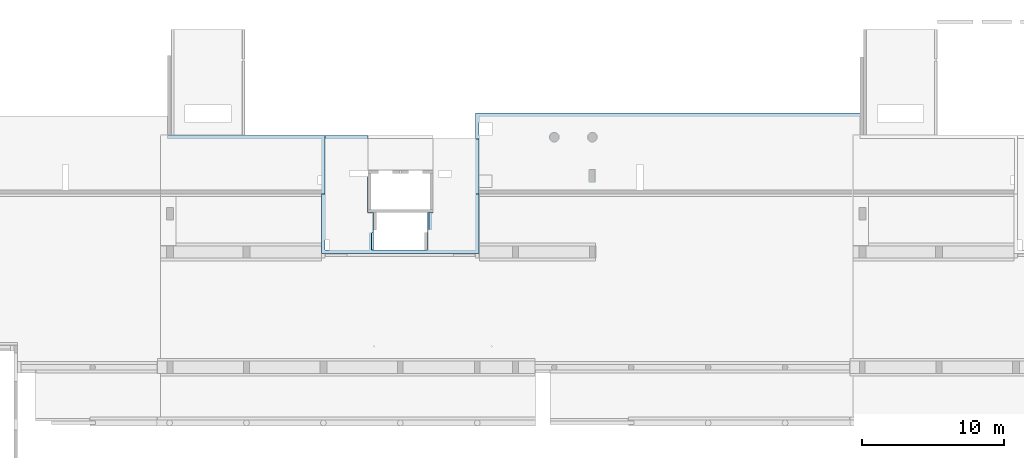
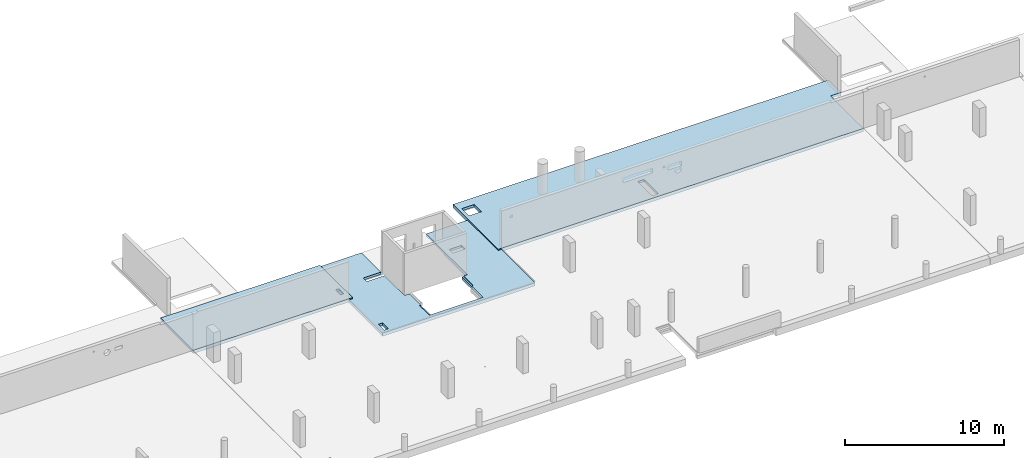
# One storey, part 8 of 10: 3 slabs.
"""IFC2X3 building model written with IfcOpenShell, lengths in millimetres."""

from ifc_helpers import new_model, entity, si_unit, converted_unit, derived_unit, direction, frame, origin, place, context, subcontext, project, spatial, faceted_brep, element, save


model = new_model("IFC2X3")

# Units and contexts
model_context = context("Model", 3, precision=0.01, world=origin(), true_north=direction((6.12303176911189e-17, 1.0)))
body_context = subcontext(model_context, "Body", "Model", "MODEL_VIEW")
ifc_project = project(units=[si_unit("LENGTHUNIT", "METRE", prefix="MILLI"), si_unit("AREAUNIT", "SQUARE_METRE"), si_unit("VOLUMEUNIT", "CUBIC_METRE"), converted_unit("PLANEANGLEUNIT", "DEGREE", entity("IfcRatioMeasure", 0.0174532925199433), si_unit("PLANEANGLEUNIT", "RADIAN"), dimensions=[0, 0, 0, 0, 0, 0, 0]), si_unit("MASSUNIT", "GRAM", prefix="KILO"), derived_unit("MASSDENSITYUNIT", [(si_unit("MASSUNIT", "GRAM", prefix="KILO"), 1), (si_unit("LENGTHUNIT", "METRE"), -3)]), si_unit("TIMEUNIT", "SECOND"), si_unit("FREQUENCYUNIT", "HERTZ"), si_unit("THERMODYNAMICTEMPERATUREUNIT", "DEGREE_CELSIUS"), derived_unit("THERMALTRANSMITTANCEUNIT", [(si_unit("MASSUNIT", "GRAM", prefix="KILO"), 1), (si_unit("THERMODYNAMICTEMPERATUREUNIT", "KELVIN"), -1), (si_unit("TIMEUNIT", "SECOND"), -3)]), derived_unit("VOLUMETRICFLOWRATEUNIT", [(si_unit("LENGTHUNIT", "METRE"), 3), (si_unit("TIMEUNIT", "SECOND"), -1)]), si_unit("ELECTRICCURRENTUNIT", "AMPERE"), si_unit("ELECTRICVOLTAGEUNIT", "VOLT"), si_unit("POWERUNIT", "WATT"), si_unit("FORCEUNIT", "NEWTON", prefix="KILO"), si_unit("ILLUMINANCEUNIT", "LUX"), si_unit("LUMINOUSFLUXUNIT", "LUMEN"), si_unit("LUMINOUSINTENSITYUNIT", "CANDELA"), derived_unit("USERDEFINED", [(si_unit("MASSUNIT", "GRAM", prefix="KILO"), -1), (si_unit("LENGTHUNIT", "METRE"), -2), (si_unit("TIMEUNIT", "SECOND"), 3), (si_unit("LUMINOUSFLUXUNIT", "LUMEN"), 1)]), derived_unit("LINEARVELOCITYUNIT", [(si_unit("LENGTHUNIT", "METRE"), 1), (si_unit("TIMEUNIT", "SECOND"), -1)]), si_unit("PRESSUREUNIT", "PASCAL"), derived_unit("USERDEFINED", [(si_unit("LENGTHUNIT", "METRE"), -2), (si_unit("MASSUNIT", "GRAM", prefix="KILO"), 1), (si_unit("TIMEUNIT", "SECOND"), -2)])], contexts=[model_context])

# Site, building, storey
site_placement = place(None, origin())
site = spatial("IfcSite", under=ifc_project, at=site_placement, Name="Default", CompositionType="ELEMENT")
building_placement = place(site_placement, origin())
building = spatial("IfcBuilding", under=site, at=building_placement, Name="niet gebruiken", CompositionType="ELEMENT")
storey_placement = place(building_placement, frame((0.0, 0.0, 9410.0)))
storey = spatial("IfcBuildingStorey", under=building, at=storey_placement, Name="02b tweede tussenverdieping", CompositionType="ELEMENT", Elevation=9409.99999999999)

# Slabs
slab_1_placement = place(storey_placement, origin())
element("IfcSlab", 1, at=slab_1_placement, inside=storey, Name="Floor:NLRS_23.21_FL_breedplaat d=70/250_schil apart - gevlinderd_gen", ObjectType="Floor:NLRS_23.21_FL_breedplaat d=70/250_schil apart - gevlinderd_gen", PredefinedType="FLOOR", context=body_context, shape_type="Brep", body=[
    faceted_brep([(60225.0, 41291.0, -250.0), (74950.0, 41291.0, -250.0), (74950.0, 41061.0, -250.0), (48724.9998491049, 41061.0, -250.0), (48474.9998491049, 41061.0, -250.0), (48474.9998491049, 44906.0, -250.0), (48474.9998491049, 45156.0, -250.0), (48474.9998491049, 46746.0, -250.0), (48725.0, 46746.0, -250.0), (75450.0, 46746.0, -250.0), (75700.0, 46746.0, -250.0), (75700.0, 45176.0, -250.0), (75470.0, 45176.0, -250.0), (75470.0, 46516.0, -250.0), (48705.0, 46516.0, -250.0), (48705.0, 46056.0, -250.0), (48725.0, 46056.0, -250.0), (48725.0, 45156.0, -250.0), (48705.0, 45156.0, -250.0), (48705.0, 42386.0, -250.0), (48724.9998491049, 42386.0, -250.0), (48724.9998491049, 41486.0, -250.0), (48705.0, 41486.0, -250.0), (48705.0, 41291.0, -250.0), (59775.0, 41291.0, -250.0), (59775.0, 41311.0, -250.0), (60225.0, 41311.0, -250.0), (53655.0, 45031.0, -250.0), (53683.6234362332, 45104.8856059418, -250.0), (53712.2468724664, 45178.7712118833, -250.0), (53745.0419235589, 45263.4249970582, -250.0), (53816.7395886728, 45291.2008204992, -250.0), (53888.4372537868, 45318.9766439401, -250.0), (53960.1349189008, 45346.752467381, -250.0), (54031.8325840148, 45374.528290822, -250.0), (54087.6139571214, 45346.752467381, -250.0), (54143.395330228, 45318.9766439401, -250.0), (54199.1767033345, 45291.2008204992, -250.0), (54254.9580764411, 45263.4249970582, -250.0), (54277.4685573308, 45205.3187477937, -250.0), (54299.9790382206, 45147.2124985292, -250.0), (54316.3765635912, 45104.8856063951, -250.0), (54345.0, 45031.0, -250.0), (54316.3765638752, 44957.1143943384, -250.0), (54287.7531277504, 44883.2287886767, -250.0), (54254.9580764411, 44798.5750029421, -250.0), (54183.2604113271, 44770.7991795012, -250.0), (54111.5627462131, 44743.0233560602, -250.0), (54039.8650810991, 44715.2475326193, -250.0), (53968.1674159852, 44687.4717091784, -250.0), (53912.3860428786, 44715.2475326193, -250.0), (53856.604669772, 44743.0233560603, -250.0), (53800.8232966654, 44770.7991795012, -250.0), (53745.0419235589, 44798.5750029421, -250.0), (53722.5314426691, 44856.6812522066, -250.0), (53700.0209617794, 44914.7875014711, -250.0), (53683.6234367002, 44957.1143928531, -250.0), (56895.0, 42776.0, -250.0), (56895.0, 41886.0, -250.0), (56455.0, 41886.0, -250.0), (56455.0, 42776.0, -250.0), (56420.0419235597, 45263.4249970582, -250.0), (56491.7395886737, 45291.2008204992, -250.0), (56563.4372537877, 45318.9766439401, -250.0), (56635.1349189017, 45346.752467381, -250.0), (56706.8325840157, 45374.528290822, -250.0), (56762.6139571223, 45346.752467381, -250.0), (56818.3953302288, 45318.9766439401, -250.0), (56874.1767033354, 45291.2008204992, -250.0), (56929.958076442, 45263.4249970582, -250.0), (56952.4685573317, 45205.3187477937, -250.0), (56974.9790382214, 45147.2124985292, -250.0), (56991.376563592, 45104.8856063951, -250.0), (57020.0, 45031.0, -250.0), (56991.3765638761, 44957.1143943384, -250.0), (56962.7531277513, 44883.2287886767, -250.0), (56929.958076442, 44798.5750029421, -250.0), (56858.260411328, 44770.7991795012, -250.0), (56786.562746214, 44743.0233560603, -250.0), (56714.8650811, 44715.2475326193, -250.0), (56643.167415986, 44687.4717091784, -250.0), (56587.3860428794, 44715.2475326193, -250.0), (56531.6046697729, 44743.0233560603, -250.0), (56475.8232966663, 44770.7991795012, -250.0), (56420.0419235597, 44798.5750029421, -250.0), (56397.53144267, 44856.6812522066, -250.0), (56375.0209617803, 44914.7875014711, -250.0), (56358.6234367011, 44957.1143928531, -250.0), (56330.0, 45031.0, -250.0), (56358.6234362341, 45104.8856059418, -250.0), (56387.2468724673, 45178.7712118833, -250.0), (48474.9998491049, 44906.0, 0.0), (48474.9998491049, 41061.0, 0.0), (48725.0, 41061.0, 0.0), (49625.0, 45156.0, 0.0), (48725.0, 45156.0, 0.0), (48474.9998491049, 45156.0, 0.0), (59775.0, 41311.0, 0.0), (60225.0, 41311.0, 0.0), (74950.0, 41061.0, 0.0), (69105.0, 46746.0, 0.0), (74950.0, 41311.0, 0.0), (70075.0, 46746.0, 0.0), (70325.0, 46746.0, 0.0), (71295.0, 46746.0, 0.0), (74950.0, 45176.0, 0.0), (75700.0, 46746.0, 0.0), (75700.0, 46496.0, 0.0), (75700.0, 45176.0, 0.0), (60225.0, 43111.0, 0.0), (60495.0, 46746.0, 0.0), (59525.0, 46746.0, 0.0), (59775.0, 43111.0, 0.0), (59275.0, 46746.0, 0.0), (58305.0, 46746.0, 0.0), (49625.0, 46056.0, 0.0), (49695.0, 46746.0, 0.0), (48725.0, 46746.0, 0.0), (48725.0, 46056.0, 0.0), (48474.9998491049, 46156.0, 0.0), (48474.9998491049, 46746.0, 0.0), (49725.0, 46746.0, -120.0), (58275.0, 46746.0, -120.0), (60525.0, 46746.0, -120.0), (48474.9998491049, 46746.0, -50.0), (49725.0, 46746.0, -50.0), (58275.0, 46746.0, -50.0), (60525.0, 46746.0, -50.0), (69075.0, 46746.0, -50.0), (69075.0, 46746.0, -120.0), (75700.0, 46746.0, -120.0), (48474.9998491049, 41061.0, -90.0), (75470.0, 45176.0, -180.0), (74950.0, 45176.0, -180.0), (74950.0, 41291.0, -180.0), (49625.0, 46056.0, -180.0), (48725.0, 46056.0, -180.0), (48725.0, 45156.0, -180.0), (49625.0, 45156.0, -180.0), (59775.0, 43111.0, -180.0), (60225.0, 43111.0, -180.0), (60225.0, 41311.0, -180.0), (59775.0, 41311.0, -180.0), (58275.0, 46726.0, -120.0), (49725.0, 46726.0, -120.0), (60525.0, 46726.0, -120.0), (69075.0, 46726.0, -120.0), (58275.0, 46726.0, -50.0), (49725.0, 46726.0, -50.0), (69075.0, 46726.0, -50.0), (60525.0, 46726.0, -50.0), (60225.0, 41291.0, -180.0), (75470.0, 46516.0, -180.0), (56929.958076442, 45263.4249970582, -180.0), (56952.4685573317, 45205.3187477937, -180.0), (56974.9790382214, 45147.2124985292, -180.0), (56997.4895191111, 45089.1062492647, -180.0), (57020.0, 45031.0, -180.0), (56997.4895191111, 44972.8937507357, -180.0), (56974.9790382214, 44914.7875014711, -180.0), (56952.4685573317, 44856.6812522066, -180.0), (56929.958076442, 44798.5750029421, -180.0), (56895.0, 42776.0, -180.0), (56895.0, 41886.0, -180.0), (59775.0, 41291.0, -180.0), (56455.0, 41886.0, -180.0), (48705.0, 41291.0, -180.0), (48724.9998491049, 41486.0, -180.0), (48705.0, 41486.0, -180.0), (54031.8325840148, 44687.4717091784, -180.0), (53960.1349189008, 44715.2475326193, -180.0), (53888.4372537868, 44743.0233560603, -180.0), (53816.7395886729, 44770.7991795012, -180.0), (53745.0419235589, 44798.5750029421, -180.0), (48724.9998491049, 42386.0, -180.0), (48705.0, 45156.0, -180.0), (48705.0, 42386.0, -180.0), (53722.5314426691, 44856.6812522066, -180.0), (53700.0209617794, 44914.7875014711, -180.0), (53677.5104808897, 44972.8937507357, -180.0), (53655.0, 45031.0, -180.0), (53677.5104808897, 45089.1062492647, -180.0), (53700.0209617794, 45147.2124985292, -180.0), (53722.5314426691, 45205.3187477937, -180.0), (53745.0419235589, 45263.4249970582, -180.0), (53800.8232966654, 45291.2008204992, -180.0), (53856.604669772, 45318.9766439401, -180.0), (53912.3860428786, 45346.752467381, -180.0), (53968.1674159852, 45374.528290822, -180.0), (48705.0, 46516.0, -180.0), (48705.0, 46056.0, -180.0), (56643.167415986, 45374.528290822, -180.0), (54039.8650810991, 45346.752467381, -180.0), (56455.0, 42776.0, -180.0), (54087.6139571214, 44715.2475326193, -180.0), (54143.395330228, 44743.0233560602, -180.0), (54199.1767033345, 44770.7991795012, -180.0), (54254.9580764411, 44798.5750029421, -180.0), (56420.0419235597, 44798.5750029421, -180.0), (56397.53144267, 44856.6812522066, -180.0), (56375.0209617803, 44914.7875014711, -180.0), (56352.5104808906, 44972.8937507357, -180.0), (56330.0, 45031.0, -180.0), (54277.4685573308, 44856.6812522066, -180.0), (54299.9790382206, 44914.7875014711, -180.0), (54322.4895191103, 44972.8937507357, -180.0), (54345.0, 45031.0, -180.0), (56352.5104808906, 45089.1062492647, -180.0), (56375.0209617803, 45147.2124985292, -180.0), (56397.53144267, 45205.3187477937, -180.0), (56420.0419235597, 45263.4249970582, -180.0), (54322.4895191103, 45089.1062492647, -180.0), (54299.9790382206, 45147.2124985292, -180.0), (54277.4685573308, 45205.3187477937, -180.0), (54254.9580764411, 45263.4249970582, -180.0), (56587.3860428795, 45346.752467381, -180.0), (54183.2604113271, 45291.2008204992, -180.0), (56531.6046697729, 45318.9766439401, -180.0), (56475.8232966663, 45291.2008204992, -180.0), (54111.5627462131, 45318.9766439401, -180.0), (56491.7395886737, 44770.7991795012, -180.0), (56563.4372537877, 44743.0233560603, -180.0), (56635.1349189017, 44715.2475326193, -180.0), (56706.8325840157, 44687.4717091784, -180.0), (56762.6139571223, 44715.2475326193, -180.0), (56818.3953302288, 44743.0233560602, -180.0), (56874.1767033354, 44770.7991795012, -180.0), (56858.260411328, 45291.2008204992, -180.0), (56786.562746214, 45318.9766439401, -180.0), (56714.8650811, 45346.752467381, -180.0)], [[[0, 1, 2, 3, 4, 5, 6, 7, 8, 9, 10, 11, 12, 13, 14, 15, 16, 17, 18, 19, 20, 21, 22, 23, 24, 25, 26]], [[27, 28, 29, 30, 31, 32, 33, 34, 35, 36, 37, 38, 39, 40, 41, 42, 43, 44, 45, 46, 47, 48, 49, 50, 51, 52, 53, 54, 55, 56]], [[57, 58, 59, 60]], [[61, 62, 63, 64, 65, 66, 67, 68, 69, 70, 71, 72, 73, 74, 75, 76, 77, 78, 79, 80, 81, 82, 83, 84, 85, 86, 87, 88, 89, 90]], [[91, 92, 93]], [[94, 91, 93]], [[94, 95, 91]], [[96, 91, 95]], [[93, 97, 94]], [[97, 93, 98]], [[93, 99, 98]], [[99, 100, 98]], [[100, 99, 101]], [[102, 100, 101]], [[103, 102, 101]], [[104, 103, 101]], [[105, 104, 101]], [[104, 105, 106]], [[106, 105, 107]], [[108, 107, 105]], [[98, 100, 109]], [[110, 109, 100]], [[109, 110, 111]], [[109, 111, 112]], [[113, 112, 111]], [[112, 113, 114]], [[114, 94, 112]], [[94, 114, 115]], [[116, 115, 114]], [[115, 116, 117]], [[115, 117, 118]], [[119, 118, 117]], [[117, 120, 119]], [[118, 119, 96]], [[96, 95, 118]], [[97, 112, 94]], [[8, 121, 122]], [[8, 116, 121]], [[8, 122, 123]], [[123, 9, 8]], [[117, 116, 8]], [[117, 8, 124]], [[8, 7, 124]], [[117, 124, 120]], [[116, 125, 121]], [[126, 125, 116]], [[126, 116, 114]], [[126, 114, 122]], [[114, 113, 122]], [[113, 111, 122]], [[111, 123, 122]], [[110, 123, 111]], [[127, 123, 110]], [[127, 110, 100]], [[128, 127, 100]], [[128, 100, 129]], [[102, 129, 100]], [[103, 129, 102]], [[129, 103, 104]], [[129, 104, 9]], [[104, 106, 9]], [[106, 130, 9]], [[130, 10, 9]], [[129, 9, 123]], [[107, 108, 11, 10, 130, 106]], [[4, 131, 92, 91, 96, 119, 120, 124, 7, 6, 5]], [[132, 12, 11, 108, 105, 133]], [[134, 133, 105, 101, 99, 2, 1]], [[3, 2, 99, 93, 92, 131, 4]], [[135, 115, 118, 136]], [[136, 118, 95, 137, 17, 16]], [[137, 95, 94, 138]], [[138, 94, 115, 135]], [[109, 112, 139, 140]], [[98, 109, 140, 141]], [[97, 98, 141, 26, 25, 142]], [[112, 97, 142, 139]], [[143, 122, 121, 144]], [[145, 146, 129, 123]], [[126, 147, 148, 125]], [[127, 128, 149, 150]], [[125, 148, 144, 121]], [[147, 143, 144, 148]], [[149, 146, 145, 150]], [[126, 122, 143, 147]], [[150, 145, 123, 127]], [[128, 129, 146, 149]], [[151, 141, 134]], [[140, 134, 141]], [[133, 134, 140]], [[152, 133, 140]], [[152, 140, 153]], [[140, 139, 153]], [[139, 154, 153]], [[139, 155, 154]], [[139, 156, 155]], [[139, 157, 156]], [[139, 158, 157]], [[139, 159, 158]], [[139, 160, 159]], [[139, 161, 160]], [[161, 139, 162]], [[163, 162, 139]], [[142, 163, 139]], [[163, 142, 164]], [[165, 163, 164]], [[164, 166, 165]], [[166, 167, 165]], [[167, 166, 168]], [[169, 165, 167]], [[167, 170, 169]], [[167, 171, 170]], [[167, 172, 171]], [[167, 173, 172]], [[167, 174, 173]], [[138, 173, 174]], [[137, 138, 174]], [[137, 174, 175]], [[176, 175, 174]], [[138, 177, 173]], [[138, 178, 177]], [[138, 179, 178]], [[138, 180, 179]], [[138, 135, 180]], [[135, 181, 180]], [[135, 182, 181]], [[135, 183, 182]], [[135, 184, 183]], [[135, 185, 184]], [[135, 186, 185]], [[135, 187, 186]], [[135, 188, 187]], [[189, 188, 135]], [[135, 136, 189]], [[190, 189, 136]], [[189, 152, 191]], [[189, 191, 188]], [[191, 192, 188]], [[193, 165, 169]], [[193, 169, 194]], [[193, 194, 195]], [[193, 195, 196]], [[193, 196, 197]], [[197, 198, 193]], [[197, 199, 198]], [[197, 200, 199]], [[197, 201, 200]], [[197, 202, 201]], [[202, 197, 203]], [[202, 203, 204]], [[202, 204, 205]], [[202, 205, 206]], [[206, 207, 202]], [[206, 208, 207]], [[206, 209, 208]], [[206, 210, 209]], [[210, 206, 211]], [[210, 211, 212]], [[210, 212, 213]], [[210, 213, 214]], [[214, 191, 215]], [[191, 214, 216]], [[214, 215, 217]], [[214, 217, 218]], [[214, 218, 210]], [[191, 216, 219]], [[191, 219, 192]], [[193, 198, 220]], [[193, 220, 221]], [[193, 221, 222]], [[193, 222, 223]], [[162, 223, 224]], [[193, 223, 162]], [[162, 224, 225]], [[162, 225, 226]], [[162, 226, 161]], [[152, 153, 227]], [[152, 227, 228]], [[152, 228, 229]], [[152, 229, 191]], [[152, 132, 133]], [[152, 13, 12, 132]], [[151, 134, 1, 0]], [[164, 24, 23, 166]], [[189, 190, 15, 14]], [[168, 166, 23, 22]], [[176, 19, 18, 175]], [[152, 189, 14, 13]], [[151, 0, 26, 141]], [[164, 142, 25, 24]], [[167, 168, 22, 21]], [[176, 174, 20, 19]], [[175, 18, 17, 137]], [[190, 136, 16, 15]], [[165, 193, 60, 59]], [[163, 165, 59, 58]], [[162, 163, 58, 57]], [[193, 162, 57, 60]], [[198, 199, 200, 201, 202, 88, 87, 86, 85, 84]], [[81, 222, 221]], [[81, 80, 222]], [[82, 221, 220]], [[80, 223, 222]], [[76, 75, 74, 73, 157, 158, 159, 160, 161]], [[161, 226, 76]], [[220, 198, 83]], [[223, 79, 224]], [[225, 77, 226]], [[224, 79, 78]], [[198, 84, 83]], [[82, 220, 83]], [[223, 80, 79]], [[76, 226, 77]], [[221, 82, 81]], [[78, 225, 224]], [[77, 225, 78]], [[153, 154, 155, 156, 157, 73, 72, 71, 70, 69]], [[215, 64, 63]], [[66, 65, 229]], [[67, 228, 227]], [[227, 153, 68]], [[65, 64, 191]], [[61, 90, 89, 88, 202, 207, 208, 209, 210]], [[210, 218, 61]], [[191, 64, 215]], [[217, 62, 218]], [[228, 66, 229]], [[228, 67, 66]], [[153, 69, 68]], [[67, 227, 68]], [[61, 218, 62]], [[63, 217, 215]], [[65, 191, 229]], [[62, 217, 63]], [[214, 213, 212, 211, 206, 42, 41, 40, 39, 38]], [[187, 33, 32]], [[35, 34, 192]], [[36, 219, 216]], [[216, 214, 37]], [[34, 33, 188]], [[30, 29, 28, 27, 180, 181, 182, 183, 184]], [[184, 185, 30]], [[188, 33, 187]], [[186, 31, 185]], [[219, 35, 192]], [[219, 36, 35]], [[214, 38, 37]], [[36, 216, 37]], [[30, 185, 31]], [[32, 186, 187]], [[34, 188, 192]], [[31, 186, 32]], [[173, 177, 178, 179, 180, 27, 56, 55, 54, 53]], [[50, 170, 171]], [[50, 49, 170]], [[51, 171, 172]], [[49, 169, 170]], [[45, 44, 43, 42, 206, 205, 204, 203, 197]], [[197, 196, 45]], [[172, 173, 52]], [[169, 48, 194]], [[195, 46, 196]], [[194, 48, 47]], [[173, 53, 52]], [[51, 172, 52]], [[169, 49, 48]], [[45, 196, 46]], [[171, 51, 50]], [[47, 195, 194]], [[46, 195, 47]], [[167, 21, 20, 174]]]),
])
slab_2_placement = place(storey_placement, origin())
element("IfcSlab", 2, at=slab_2_placement, inside=storey, Name="Floor:NLRS_23.21_FL_breedplaat d=70/250_schil apart - gevlinderd_gen", ObjectType="Floor:NLRS_23.21_FL_breedplaat d=70/250_schil apart - gevlinderd_gen", PredefinedType="FLOOR", context=body_context, shape_type="Brep", body=[
    faceted_brep([(26870.0, 45156.0, -250.0), (37674.9998491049, 45156.0, -250.0), (37674.9998491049, 44926.0, -250.0), (26870.0, 44926.0, -250.0), (37925.0, 45156.0, 0.0), (26850.0, 45156.0, 0.0), (26370.0, 45156.0, 0.0), (26370.0, 41311.0, 0.0), (26370.0, 41061.0, 0.0), (37675.0, 41061.0, 0.0), (37925.0, 41061.0, 0.0), (37925.0, 43386.0, 0.0), (37925.0, 44411.0, 0.0), (37925.0, 44906.0, 0.0), (37414.999815, 42318.600192, 0.0), (37674.999815, 42318.600192, 0.0), (37674.999815, 41703.600192, 0.0), (37414.999815, 41703.600192, 0.0), (37925.0, 45156.0, -50.0), (37925.0, 45156.0, -90.0), (37674.9998491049, 45156.0, -90.0), (37674.9998491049, 45156.0, -120.0), (26870.0, 45156.0, -180.0), (26370.0, 45156.0, -180.0), (37925.0, 41061.0, -90.0), (37925.0, 44906.0, -90.0), (37925.0, 45136.0, -90.0), (26370.0, 41061.0, -250.0), (37674.9998491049, 41061.0, -250.0), (37674.9998491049, 41061.0, -90.0), (26370.0, 41291.0, -180.0), (26370.0, 41291.0, -250.0), (37674.999815, 42318.600192, -90.0), (37674.9998488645, 45136.0, -90.0), (37674.999815, 41703.600192, -90.0), (37674.9998491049, 41291.0, -250.0), (37674.9998491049, 41291.0, -180.0), (37674.9998491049, 41703.600192, -180.0), (26870.0, 44926.0, -180.0), (37674.9998491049, 44926.0, -180.0), (37674.9998491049, 42318.600192, -180.0), (37414.999815, 42318.600192, -180.0), (37414.999815, 41703.600192, -180.0)], [[[0, 1, 2, 3]], [[4, 5, 6, 7, 8, 9, 10, 11, 12, 13], [14, 15, 16, 17]], [[6, 5, 4, 18, 19, 20, 21, 1, 0, 22, 23]], [[4, 13, 12, 11, 10, 24, 25, 26, 19, 18]], [[10, 9, 8, 27, 28, 29, 24]], [[8, 7, 6, 23, 30, 31, 27]], [[32, 33, 20, 19, 26, 25, 24, 29, 34]], [[29, 28, 35, 36, 37, 34]], [[22, 38, 39, 40, 41, 42, 37, 36, 30, 23]], [[38, 22, 0, 3]], [[38, 3, 2, 39]], [[30, 36, 35, 31]], [[15, 14, 41, 40, 32]], [[14, 17, 42, 41]], [[17, 16, 34, 37, 42]], [[16, 15, 32, 34]], [[20, 33, 32, 40, 39, 2, 1, 21]], [[28, 27, 31, 35]]]),
])
slab_3_placement = place(storey_placement, origin())
element("IfcSlab", 3, at=slab_3_placement, inside=storey, Name="Floor:NLRS_23.21_FL_breedplaat d=70/250_schil apart_gen", ObjectType="Floor:NLRS_23.21_FL_breedplaat d=70/250_schil apart_gen", PredefinedType="FLOOR", context=body_context, shape_type="Brep", body=[
    faceted_brep([(37674.9998491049, 45156.0, -340.0), (40924.9998491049, 45156.0, -340.0), (40924.9998491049, 44926.0, -340.0), (37905.0, 44926.0, -340.0), (37905.0, 37826.0, -340.0), (37925.0, 37826.0, -340.0), (37925.0, 37106.0, -340.0), (38225.0, 37106.0, -340.0), (38225.0, 37086.0, -340.0), (41030.0, 37086.0, -340.0), (41030.0, 38306.0, -340.0), (41249.9997832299, 38306.0, -340.0), (41249.9997832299, 39726.0, -340.0), (40904.9998491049, 39726.0, -340.0), (40904.9998491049, 42256.0, -340.0), (40924.9998491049, 42256.0, -340.0), (40924.9998491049, 39746.0, -340.0), (41300.0, 39746.0, -340.0), (41300.0, 38526.0, -340.0), (41299.9997832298, 38326.0, -340.0), (41299.9997832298, 37106.0, -340.0), (44880.0, 37106.0, -340.0), (45099.9997832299, 37106.0, -340.0), (45099.9997832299, 38326.0, -340.0), (45100.0, 38526.0, -340.0), (45100.0, 39746.0, -340.0), (45474.999849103, 39746.0, -340.0), (45474.999849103, 42696.0, -340.0), (45494.999849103, 42696.0, -340.0), (45494.999849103, 39726.0, -340.0), (45370.0, 39726.0, -340.0), (45370.0, 38546.0, -340.0), (45149.9997832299, 38546.0, -340.0), (45149.9997832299, 37086.0, -340.0), (48495.0, 37086.0, -340.0), (48495.0, 44906.0, -340.0), (48724.9998491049, 44906.0, -340.0), (48724.9998491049, 36856.0, -340.0), (48475.0, 36856.0, -340.0), (37674.9998491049, 36856.0, -340.0), (37674.9998491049, 44906.0, -340.0), (37925.0, 37106.0, -90.0), (37925.0, 37826.0, -90.0), (38225.0, 37826.0, -90.0), (38225.0, 37106.0, -90.0), (37674.9998491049, 36856.0, -90.0), (48475.0, 36856.0, -90.0), (48724.9998491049, 36856.0, -90.0), (48724.9998491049, 41061.0, -90.0), (48474.9998491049, 41061.0, -90.0), (48474.9998491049, 44906.0, -90.0), (45474.999849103, 44906.0, -90.0), (45474.999849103, 42696.0, -90.0), (45474.999849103, 39746.0, -90.0), (45210.0, 39746.0, -90.0), (45210.0, 38526.0, -90.0), (45099.9997832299, 38526.0, -90.0), (45099.9997832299, 38326.0, -90.0), (45099.9997832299, 37106.0, -90.0), (44990.0, 37106.0, -90.0), (41189.9997832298, 37106.0, -90.0), (41189.9997832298, 38326.0, -90.0), (41300.0, 38326.0, -90.0), (41300.0, 38526.0, -90.0), (41300.0, 39746.0, -90.0), (40924.9998491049, 39746.0, -90.0), (40924.9998491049, 42256.0, -90.0), (39627.4998491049, 42256.0, -90.0), (39627.4998491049, 42696.0, -90.0), (40924.9998491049, 42696.0, -90.0), (40924.9998491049, 45136.0, -90.0), (40605.0, 45136.0, -90.0), (40605.0, 45156.0, -90.0), (40395.0, 45156.0, -90.0), (40395.0, 45136.0, -90.0), (37925.0, 45136.0, -90.0), (37674.9998491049, 45136.0, -90.0), (37674.9998491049, 42318.600192, -90.0), (37674.9998491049, 41703.600192, -90.0), (37674.9998491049, 41061.0, -90.0), (45880.0, 42701.0, -90.0), (46780.0, 42701.0, -90.0), (46780.0, 42251.0, -90.0), (45880.0, 42251.0, -90.0), (37674.9998491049, 45156.0, -250.0), (37674.9998491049, 45156.0, -120.0), (40395.0, 45156.0, -120.0), (40605.0, 45156.0, -120.0), (40924.9998491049, 45156.0, -120.0), (48724.9998491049, 44906.0, -250.0), (48724.9998491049, 42386.0, -250.0), (48724.9998491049, 41486.0, -250.0), (48724.9998491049, 41061.0, -250.0), (37674.9998491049, 45136.0, -120.0), (40924.9998491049, 45136.0, -120.0), (40924.9998491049, 42696.0, -270.0), (40924.9998491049, 42716.0, -270.0), (40924.9998491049, 44926.0, -270.0), (45100.0, 39746.0, -130.0), (45210.0, 39746.0, -130.0), (45474.999849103, 44906.0, -270.0), (45474.999849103, 42716.0, -270.0), (45474.999849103, 42696.0, -270.0), (41299.9997832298, 38326.0, -130.0), (41299.9997832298, 37106.0, -130.0), (41189.9997832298, 37106.0, -130.0), (45099.9997832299, 38526.0, -340.0), (45100.0, 38526.0, -130.0), (48495.0, 44906.0, -270.0), (48474.9998491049, 44906.0, -250.0), (41300.0, 38326.0, -340.0), (45210.0, 38526.0, -130.0), (45099.9997832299, 38526.0, -130.0), (45100.0, 38526.0, -90.0), (41189.9997832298, 38326.0, -130.0), (41300.0, 38326.0, -130.0), (41299.9997832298, 38326.0, -90.0), (39627.4998491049, 42696.0, -270.0), (39627.4998491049, 42256.0, -270.0), (40904.9998491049, 42256.0, -270.0), (37925.0, 37826.0, -270.0), (38225.0, 37826.0, -270.0), (38225.0, 37106.0, -270.0), (45494.999849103, 42696.0, -270.0), (48495.0, 37086.0, -270.0), (45149.9997832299, 37086.0, -270.0), (45149.9997832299, 38546.0, -270.0), (45370.0, 38546.0, -270.0), (45370.0, 39726.0, -270.0), (45494.999849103, 39726.0, -270.0), (46780.0, 42701.0, -270.0), (45880.0, 42701.0, -270.0), (45880.0, 42251.0, -270.0), (46780.0, 42251.0, -270.0), (40904.9998491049, 39726.0, -270.0), (41030.0, 37086.0, -270.0), (41030.0, 38306.0, -270.0), (41249.9997832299, 39726.0, -270.0), (41249.9997832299, 38306.0, -270.0), (38225.0, 37086.0, -270.0), (37905.0, 37826.0, -270.0), (37905.0, 44926.0, -270.0), (48474.9998491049, 41061.0, -250.0), (40395.0, 45136.0, -120.0), (40605.0, 45136.0, -120.0)], [[[0, 1, 2, 3, 4, 5, 6, 7, 8, 9, 10, 11, 12, 13, 14, 15, 16, 17, 18, 19, 20, 21, 22, 23, 24, 25, 26, 27, 28, 29, 30, 31, 32, 33, 34, 35, 36, 37, 38, 39, 40]], [[41, 42, 43, 44], [45, 46, 47, 48, 49, 50, 51, 52, 53, 54, 55, 56, 57, 58, 59, 60, 61, 62, 63, 64, 65, 66, 67, 68, 69, 70, 71, 72, 73, 74, 75, 76, 77, 78, 79], [80, 81, 82, 83]], [[1, 0, 84, 85, 86, 73, 72, 87, 88]], [[37, 36, 89, 90, 91, 92, 48, 47]], [[39, 38, 37, 47, 46, 45]], [[0, 40, 39, 45, 79, 78, 77, 76, 93, 85, 84]], [[2, 1, 88, 94, 70, 69, 95, 96, 97]], [[26, 25, 98, 99, 54, 53]], [[53, 52, 51, 100, 101, 102, 27, 26]], [[20, 19, 103, 104]], [[22, 21, 20, 104, 105, 60, 59, 58]], [[106, 23, 22, 58, 57, 56, 107]], [[17, 16, 65, 64]], [[36, 35, 108, 100, 51, 50, 109, 89]], [[25, 24, 107, 98]], [[110, 18, 17, 64, 63, 62, 103]], [[107, 111, 99, 98]], [[99, 111, 55, 54]], [[111, 112, 113, 55]], [[105, 104, 103, 114]], [[105, 114, 61, 60]], [[114, 115, 116, 61]], [[69, 68, 117, 95]], [[68, 67, 118, 117]], [[67, 66, 15, 14, 119, 118]], [[41, 6, 5, 120, 42]], [[43, 42, 120, 121]], [[44, 43, 121, 122]], [[6, 41, 44, 122, 7]], [[123, 102, 101, 100, 108, 124, 125, 126, 127, 128, 129], [130, 131, 132, 133]], [[134, 119, 14, 13]], [[129, 128, 30, 29]], [[135, 136, 10, 9]], [[126, 125, 33, 32]], [[137, 134, 13, 12]], [[127, 126, 32, 31]], [[128, 127, 31, 30]], [[138, 137, 12, 11]], [[139, 135, 9, 8]], [[139, 8, 7, 122]], [[4, 140, 120, 5]], [[141, 140, 4, 3]], [[97, 141, 3, 2]], [[34, 124, 108, 35]], [[125, 124, 34, 33]], [[123, 129, 29, 28]], [[102, 123, 28, 27]], [[136, 138, 11, 10]], [[109, 142, 92, 91, 90, 89]], [[142, 109, 50, 49]], [[92, 142, 49, 48]], [[93, 143, 86, 85]], [[86, 143, 74, 73]], [[143, 93, 76, 75, 74]], [[87, 144, 94, 88]], [[94, 144, 71, 70]], [[144, 87, 72, 71]], [[81, 80, 131, 130]], [[82, 81, 130, 133]], [[83, 82, 133, 132]], [[80, 83, 132, 131]], [[141, 97, 96, 95, 117, 118, 119, 134, 137, 138, 136, 135, 139, 122, 121, 120, 140]], [[65, 16, 15, 66]]], outer=[[True], [False, True, False], [True], [True], [True], [True], [True], [True], [True], [True], [True], [True], [True], [True], [True], [True], [True], [True], [True], [True], [True], [True], [True], [True], [True], [True], [True], [True], [True], [True, False], [True], [True], [True], [True], [True], [True], [True], [True], [True], [True], [True], [True], [True], [True], [True], [True], [True], [True], [True], [True], [True], [True], [True], [True], [True], [True], [True], [True], [True], [True], [True], [True], [True]]),
])

save(model, "model.ifc")
